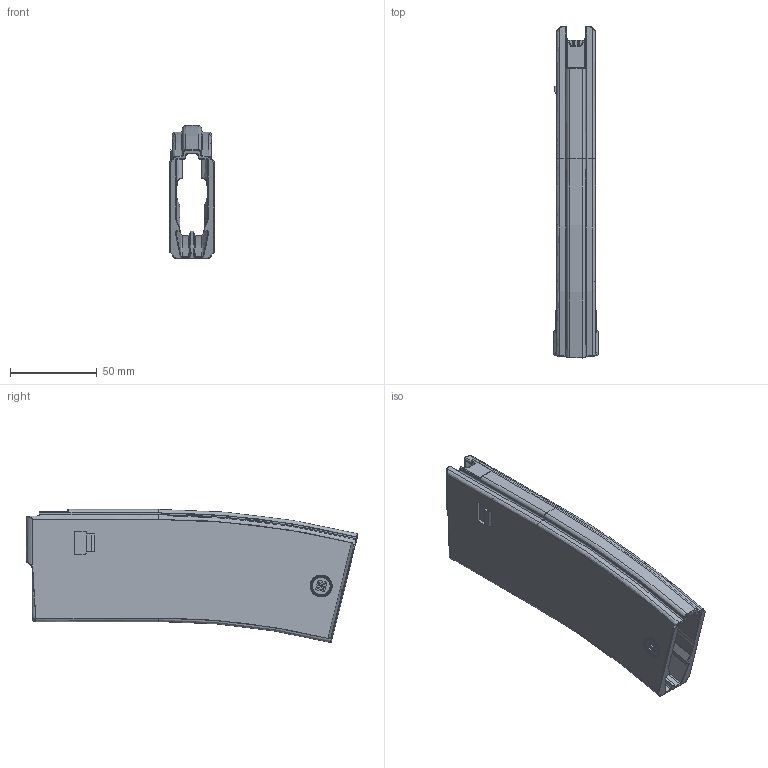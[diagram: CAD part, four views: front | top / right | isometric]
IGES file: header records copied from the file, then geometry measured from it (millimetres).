
Start section: SolidWorks IGES file using analytic representation for surfaces
Global section: file name: D:\DD\AR15\AR15_30_Body_J.IGS; native system: SolidWorks 2012; preprocessor: SolidWorks 2012; author: rakumar; date: 130417.154133; units: inch
Bounding box: 25.65 x 191.03 x 76.59 mm (x, y, z)
Surface area: 61178.5 mm2 (no closed solid volume)
Topology: 0 solids, 0 shells, 903 faces, 9747 edges, 9727 vertices
Faces by surface type: bspline 755, revolution 148
